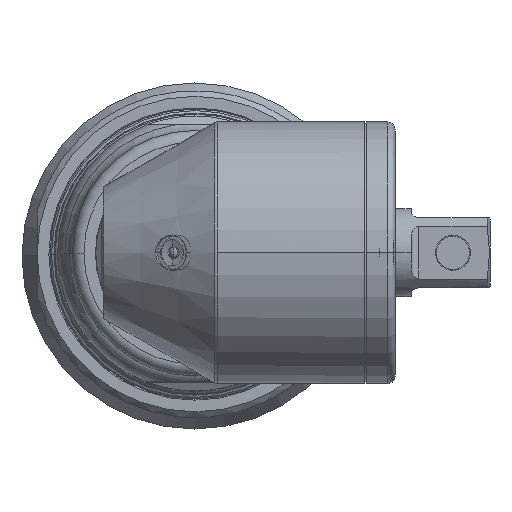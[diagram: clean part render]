
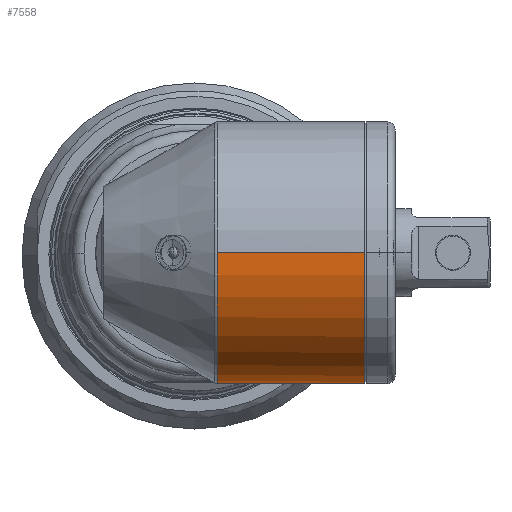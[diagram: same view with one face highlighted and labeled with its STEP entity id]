
A CAD part, top view. The second image highlights one B-rep face of the part: STEP entity #7558.
In plain terms, the highlighted cylindrical face has radius 17.78 mm (diameter 35.56 mm), a partial arc.
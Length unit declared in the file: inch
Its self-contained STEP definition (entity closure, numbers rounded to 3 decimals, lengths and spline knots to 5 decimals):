
#429 = EDGE_CURVE ( 'NONE', #3009, #48626, #18122, .T. ) ;
#456 = DIRECTION ( 'NONE',  ( 1., 0., 0. ) ) ;
#1643 = CARTESIAN_POINT ( 'NONE',  ( -2.42767, -0.13444, -0.68716 ) ) ;
#2708 = CARTESIAN_POINT ( 'NONE',  ( -2.51368, -0.30979, -0.6284 ) ) ;
#3009 = VERTEX_POINT ( 'NONE', #55667 ) ;
#5026 = LINE ( 'NONE', #58555, #34321 ) ;
#5502 = CARTESIAN_POINT ( 'NONE',  ( -2.88157, -0.54546, -0.43873 ) ) ;
#6203 = B_SPLINE_CURVE_WITH_KNOTS ( 'NONE', 3,
 ( #18929, #24481, #41014, #8013, #46519, #13599, #52081, #19169, #57577, #24728, #63056, #30247, #68577, #35714, #2708, #41243, #8259, #46764, #13849, #1643, #40170, #7219, #45693, #12755, #51261, #18363 ),
 .UNSPECIFIED., .F., .F.,
 ( 4, 2, 2, 2, 2, 2, 2, 2, 2, 2, 2, 2, 4 ),
 ( 0.00008, 0.00139, 0.00271, 0.00534, 0.00666, 0.00798, 0.01061, 0.01324, 0.01587, 0.01719, 0.0185, 0.01982, 0.02114 ),
 .UNSPECIFIED. ) ;
#7219 = CARTESIAN_POINT ( 'NONE',  ( -2.41664, -0.08534, -0.69498 ) ) ;
#7558 = ADVANCED_FACE ( 'NONE', ( #10600 ), #31354, .T. ) ;
#8013 = CARTESIAN_POINT ( 'NONE',  ( -2.82157, -0.51831, -0.47052 ) ) ;
#8259 = CARTESIAN_POINT ( 'NONE',  ( -2.46282, -0.22792, -0.66263 ) ) ;
#8688 = VERTEX_POINT ( 'NONE', #25979 ) ;
#9256 = CIRCLE ( 'NONE', #62054, 0.7 ) ;
#10450 = VERTEX_POINT ( 'NONE', #67741 ) ;
#10600 = FACE_OUTER_BOUND ( 'NONE', #26849, .T. ) ;
#10889 = CARTESIAN_POINT ( 'NONE',  ( -2.88157, 0., 0. ) ) ;
#12069 = CARTESIAN_POINT ( 'NONE',  ( -2.88157, 0., 0.7 ) ) ;
#12755 = CARTESIAN_POINT ( 'NONE',  ( -2.41051, -0.03452, -0.69936 ) ) ;
#13097 = DIRECTION ( 'NONE',  ( -1., 0., 0. ) ) ;
#13599 = CARTESIAN_POINT ( 'NONE',  ( -2.76054, -0.49771, -0.49247 ) ) ;
#13849 = CARTESIAN_POINT ( 'NONE',  ( -2.43761, -0.16626, -0.68016 ) ) ;
#15835 = ORIENTED_EDGE ( 'NONE', *, *, #68889, .T. ) ;
#16494 = DIRECTION ( 'NONE',  ( 0., 0., -1. ) ) ;
#18122 = B_SPLINE_CURVE_WITH_KNOTS ( 'NONE', 3,
 ( #40175, #5502, #47630, #24140, #33749, #27801 ),
 .UNSPECIFIED., .F., .F.,
 ( 4, 2, 4 ),
 ( 0., 0.0003, 0.0006 ),
 .UNSPECIFIED. ) ;
#18363 = CARTESIAN_POINT ( 'NONE',  ( -2.40961, 0., -0.7 ) ) ;
#18929 = CARTESIAN_POINT ( 'NONE',  ( -2.88662, -0.53336, -0.45335 ) ) ;
#19169 = CARTESIAN_POINT ( 'NONE',  ( -2.6903, -0.46299, -0.52511 ) ) ;
#20388 = EDGE_CURVE ( 'NONE', #66227, #8688, #5026, .T. ) ;
#22391 = CARTESIAN_POINT ( 'NONE',  ( -3.59961, 0., 0. ) ) ;
#24140 = CARTESIAN_POINT ( 'NONE',  ( -2.88349, -0.53809, -0.44774 ) ) ;
#24481 = CARTESIAN_POINT ( 'NONE',  ( -2.86996, -0.53037, -0.45687 ) ) ;
#24728 = CARTESIAN_POINT ( 'NONE',  ( -2.65036, -0.43824, -0.54596 ) ) ;
#25979 = CARTESIAN_POINT ( 'NONE',  ( -2.09461, 0., -0.7 ) ) ;
#26849 = EDGE_LOOP ( 'NONE', ( #30140, #41597, #42318, #37414, #41864, #15835 ) ) ;
#27162 = EDGE_CURVE ( 'NONE', #62636, #10450, #56326, .T. ) ;
#27801 = CARTESIAN_POINT ( 'NONE',  ( -2.88662, -0.53336, -0.45335 ) ) ;
#30140 = ORIENTED_EDGE ( 'NONE', *, *, #27162, .F. ) ;
#30247 = CARTESIAN_POINT ( 'NONE',  ( -2.60019, -0.40105, -0.5742 ) ) ;
#31354 = CYLINDRICAL_SURFACE ( 'NONE', #46036, 0.7 ) ;
#33749 = CARTESIAN_POINT ( 'NONE',  ( -2.88477, -0.53565, -0.45066 ) ) ;
#34321 = VECTOR ( 'NONE', #64054, 39.37008 ) ;
#35623 = AXIS2_PLACEMENT_3D ( 'NONE', #10889, #49401, #16494 ) ;
#35714 = CARTESIAN_POINT ( 'NONE',  ( -2.53375, -0.33483, -0.6153 ) ) ;
#37199 = CARTESIAN_POINT ( 'NONE',  ( -2.88662, -0.53336, -0.45335 ) ) ;
#37414 = ORIENTED_EDGE ( 'NONE', *, *, #55564, .T. ) ;
#40170 = CARTESIAN_POINT ( 'NONE',  ( -2.42346, -0.11826, -0.69014 ) ) ;
#40175 = CARTESIAN_POINT ( 'NONE',  ( -2.88157, -0.54793, -0.43562 ) ) ;
#41014 = CARTESIAN_POINT ( 'NONE',  ( -2.85354, -0.52673, -0.46109 ) ) ;
#41243 = CARTESIAN_POINT ( 'NONE',  ( -2.4783, -0.2564, -0.65201 ) ) ;
#41597 = ORIENTED_EDGE ( 'NONE', *, *, #51507, .T. ) ;
#41749 = VECTOR ( 'NONE', #67716, 39.37008 ) ;
#41864 = ORIENTED_EDGE ( 'NONE', *, *, #20388, .T. ) ;
#42318 = ORIENTED_EDGE ( 'NONE', *, *, #429, .T. ) ;
#45296 = CARTESIAN_POINT ( 'NONE',  ( -2.40961, 0., -0.7 ) ) ;
#45693 = CARTESIAN_POINT ( 'NONE',  ( -2.41403, -0.0686, -0.69684 ) ) ;
#46024 = CARTESIAN_POINT ( 'NONE',  ( -2.09461, 0., 0. ) ) ;
#46036 = AXIS2_PLACEMENT_3D ( 'NONE', #22391, #456, #49248 ) ;
#46230 = CIRCLE ( 'NONE', #35623, 0.7 ) ;
#46519 = CARTESIAN_POINT ( 'NONE',  ( -2.80603, -0.51356, -0.47573 ) ) ;
#46764 = CARTESIAN_POINT ( 'NONE',  ( -2.44338, -0.18196, -0.67612 ) ) ;
#47630 = CARTESIAN_POINT ( 'NONE',  ( -2.8819, -0.543, -0.44178 ) ) ;
#48626 = VERTEX_POINT ( 'NONE', #37199 ) ;
#49248 = DIRECTION ( 'NONE',  ( 0., 0., -1. ) ) ;
#49401 = DIRECTION ( 'NONE',  ( 1., 0., 0. ) ) ;
#51233 = CARTESIAN_POINT ( 'NONE',  ( -3.59961, 0., 0.7 ) ) ;
#51261 = CARTESIAN_POINT ( 'NONE',  ( -2.40961, -0.01719, -0.7 ) ) ;
#51507 = EDGE_CURVE ( 'NONE', #62636, #3009, #46230, .T. ) ;
#51596 = DIRECTION ( 'NONE',  ( 0., 0., 1. ) ) ;
#52081 = CARTESIAN_POINT ( 'NONE',  ( -2.73172, -0.48507, -0.50508 ) ) ;
#55564 = EDGE_CURVE ( 'NONE', #48626, #66227, #6203, .T. ) ;
#55667 = CARTESIAN_POINT ( 'NONE',  ( -2.88157, -0.54793, -0.43562 ) ) ;
#56326 = LINE ( 'NONE', #51233, #41749 ) ;
#57577 = CARTESIAN_POINT ( 'NONE',  ( -2.67679, -0.4551, -0.53198 ) ) ;
#58555 = CARTESIAN_POINT ( 'NONE',  ( -3.59961, 0., -0.7 ) ) ;
#62054 = AXIS2_PLACEMENT_3D ( 'NONE', #46024, #13097, #51596 ) ;
#62636 = VERTEX_POINT ( 'NONE', #12069 ) ;
#63056 = CARTESIAN_POINT ( 'NONE',  ( -2.63748, -0.42927, -0.55305 ) ) ;
#64054 = DIRECTION ( 'NONE',  ( 1., 0., 0. ) ) ;
#66227 = VERTEX_POINT ( 'NONE', #45296 ) ;
#67716 = DIRECTION ( 'NONE',  ( 1., 0., 0. ) ) ;
#67741 = CARTESIAN_POINT ( 'NONE',  ( -2.09461, 0., 0.7 ) ) ;
#68577 = CARTESIAN_POINT ( 'NONE',  ( -2.57697, -0.38038, -0.58823 ) ) ;
#68889 = EDGE_CURVE ( 'NONE', #8688, #10450, #9256, .T. ) ;
